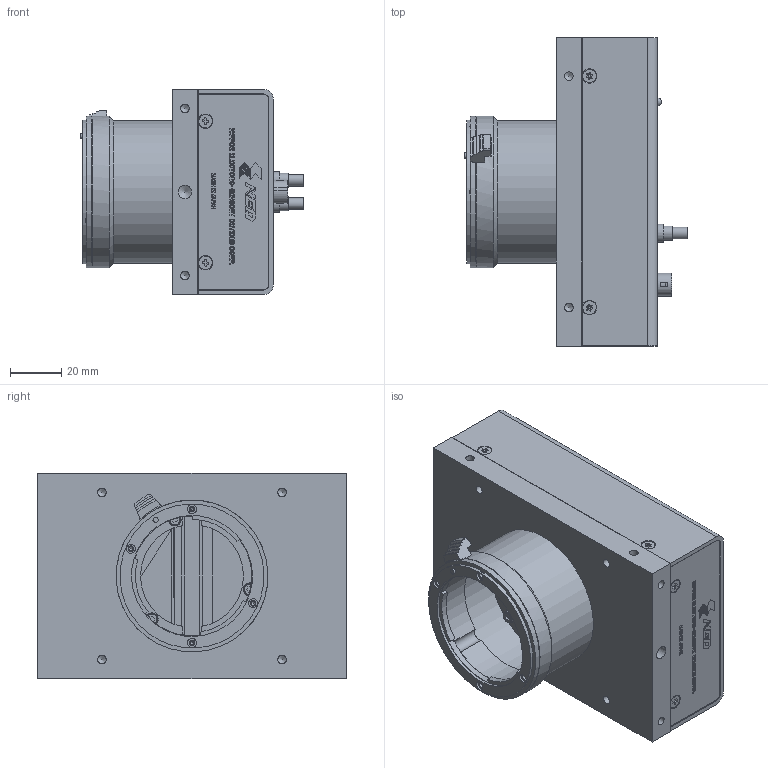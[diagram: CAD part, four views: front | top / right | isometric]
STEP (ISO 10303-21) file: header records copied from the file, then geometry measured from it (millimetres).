
FILE_DESCRIPTION (( 'STEP AP203' ), '1' );
FILE_NAME ('C7-5092-00-43／Line Scan Camera_RMSL6K76CP組立図.STEP', '2018-03-22T07:09:38', ( '' ), ( '' ), 'SwSTEP 2.0', 'SolidWorks 2016', '' );
FILE_SCHEMA (( 'CONFIG_CONTROL_DESIGN' ));
Length unit declared in the file: millimetre
Products named in the file (18): C5-5095-00-43_02／コネクタ-ナット_282121-75; C5-5029-00-40_06／六角穴付ボルト M2.6X06 SUS_SCB2.6-6; C5-5094-00-43／コネクタ_HR10G-7R-6PB(73); C5-1057-00-42／XCM_RT8_CXP用ｲﾝﾀｰﾌｪｲｽ基板_PCB-XCM_RT8-CXP00#F; C5-5099-00-43／発光ダイオード_SPR-39MVWF; C4-1019-01-42／側面パネル; ナット^C5-5094-00-43／コネクタ_HR10G-7R-6PB(73); Fマウント; C5-5042-00-43／ﾋﾟﾝ・ｻﾗ6-ﾛﾌﾞﾎﾞﾙﾄ_M2.6X6(SUS); C7-5092-00-43／Line Scan Camera_RMSL6K76CP組立図; C4-1049-00-38／Fマウント 51mm開口-33°; C4-1046-00-38／マウント本体筒; C5-5035-00-43／サラネジ M2.6X06 SUS SFBJ2.6-6黒; C4-1080-00-42／背面カバー; C4-1017-01-42／フロントパネル; C5-5095-00-43_01／コネクタ_282121-75; 菊座^C5-5094-00-43／コネクタ_HR10G-7R-6PB(73)
Assembly tree (30 placements, depth 3):
  C7-5092-00-43／Line Scan Camera_RMSL6K76CP組立図
    C4-1017-01-42／フロントパネル
    C4-1019-01-42／側面パネル  x2
    C4-1080-00-42／背面カバー
    C5-1057-00-42／XCM_RT8_CXP用ｲﾝﾀｰﾌｪｲｽ基板_PCB-XCM_RT8-CXP00#F
      C5-5099-00-43／発光ダイオード_SPR-39MVWF
    C5-5029-00-40_06／六角穴付ボルト M2.6X06 SUS_SCB2.6-6  x3
    C5-5035-00-43／サラネジ M2.6X06 SUS SFBJ2.6-6黒  x4
    C5-5042-00-43／ﾋﾟﾝ・ｻﾗ6-ﾛﾌﾞﾎﾞﾙﾄ_M2.6X6(SUS)  x6
    C5-5094-00-43／コネクタ_HR10G-7R-6PB(73)
      C5-5094-00-43／コネクタ_HR10G-7R-6PB(73)
      菊座^C5-5094-00-43／コネクタ_HR10G-7R-6PB(73)
      ナット^C5-5094-00-43／コネクタ_HR10G-7R-6PB(73)
    C5-5095-00-43_01／コネクタ_282121-75  x2
    C5-5095-00-43_02／コネクタ-ナット_282121-75  x2
    C4-1049-00-38／Fマウント 51mm開口-33°
      C4-1046-00-38／マウント本体筒
      Fマウント
Bounding box: 86.9 x 120 x 80 mm (x, y, z)
Volume: 167486.6 mm3; surface area: 95080.1 mm2
Topology: 42 solids, 42 shells, 7440 faces, 20168 edges, 13415 vertices
Faces by surface type: plane 3629, bspline 3284, cylinder 425, cone 101, sphere 1
Full cylindrical faces by diameter (mm): 0.19 x1, 0.5 x6, 0.8 x2, 1 x6, 1.6 x8, 1.7 x2, 2 x5, 2.05 x14, 2.2 x12, 2.6 x10, 2.8 x9, 3.1 x1, 3.2 x4, 3.3 x12, 3.5 x7, 3.8 x1, 4 x1, 4.5 x5, 5 x3, 5.105 x1, 5.2 x4, 5.5 x4, 5.6 x1, 5.7 x1, 5.9 x2, 6.55 x1, 6.6 x1, 7 x6, 8 x1, 8.2 x1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
Entity records: 286125 total; most frequent: CARTESIAN_POINT 143652, ORIENTED_EDGE 34252, DIRECTION 18659, EDGE_CURVE 17126, VERTEX_POINT 11492, LINE 10333, VECTOR 10333, EDGE_LOOP 7128
